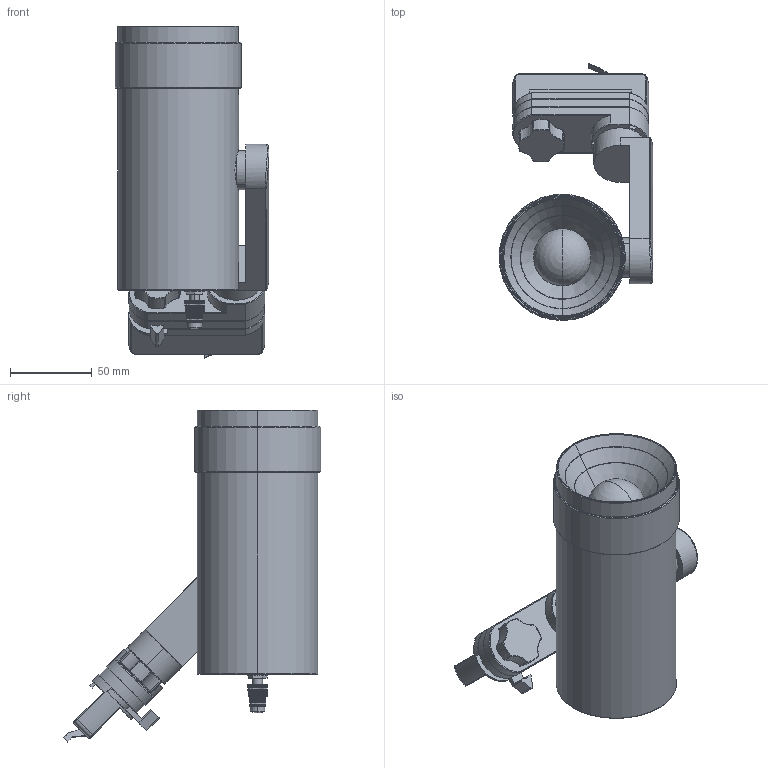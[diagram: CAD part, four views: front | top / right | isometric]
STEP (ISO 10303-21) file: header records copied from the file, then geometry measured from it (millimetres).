
FILE_DESCRIPTION((''),'2;1');
FILE_NAME('SHOWGUN20W_ASM','2025-03-25T17:23:00',('ALY'),(''),'CREO PARAMETRIC BY PTC INC, 2022164','CREO PARAMETRIC BY PTC INC, 2022164','');
FILE_SCHEMA(('AUTOMOTIVE_DESIGN { 1 0 10303 214 1 1 1 1 }'));
Length unit declared in the file: millimetre
Products named in the file (4): SHOWGUN20W0001; 0001; M3X6-0001; SHOWGUN20W_ASM
Assembly tree (4 placements, depth 2):
  SHOWGUN20W_ASM
    SHOWGUN20W0001
    0001
    M3X6-0001  x2
Bounding box: 93.75 x 157.05 x 202.45 mm (x, y, z)
Volume: 598097.2 mm3; surface area: 285518 mm2
Topology: 4 solids, 78 shells, 1382 faces, 3437 edges, 2255 vertices
Faces by surface type: plane 961, cylinder 186, cone 138, torus 63, bspline 20, sphere 14
Entity records: 51452 total; most frequent: CARTESIAN_POINT 10231, DIRECTION 6508, ORIENTED_EDGE 6494, EDGE_CURVE 3247, VECTOR 2448, LINE 2448, VERTEX_POINT 2102, AXIS2_PLACEMENT_3D 2030
